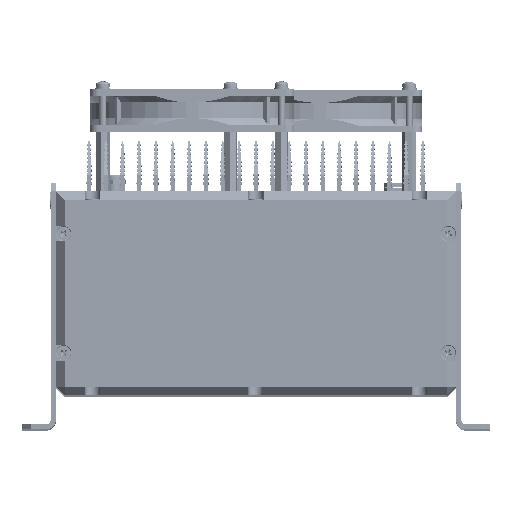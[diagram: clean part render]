
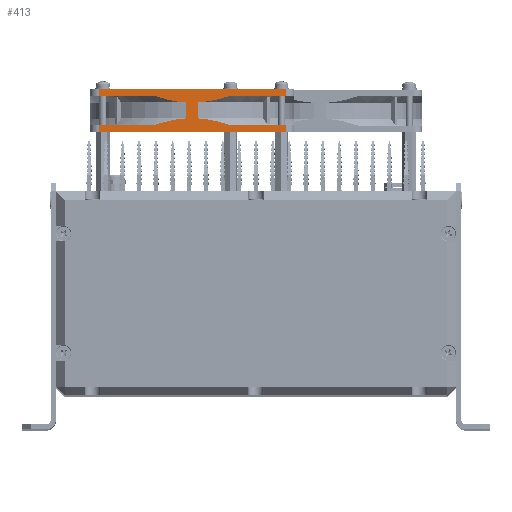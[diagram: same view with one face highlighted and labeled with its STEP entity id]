
A CAD part, top view. The second image highlights one B-rep face of the part: STEP entity #413.
In plain terms, the highlighted planar face has unit normal (0, 0, 1).
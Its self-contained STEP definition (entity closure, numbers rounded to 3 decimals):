
#413 = ADVANCED_FACE ( 'NONE', ( #228905 ), #347401, .F. ) ;
#1427 = VECTOR ( 'NONE', #3344, 1000. ) ;
#3344 = DIRECTION ( 'NONE',  ( -1., 0., 0. ) ) ;
#4995 = VECTOR ( 'NONE', #47165, 1000. ) ;
#6137 = VERTEX_POINT ( 'NONE', #358219 ) ;
#11400 = B_SPLINE_CURVE_WITH_KNOTS ( 'NONE', 3,
 ( #151990, #120975, #318081, #265135 ),
 .UNSPECIFIED., .F., .F.,
 ( 4, 4 ),
 ( 0., 0.02 ),
 .UNSPECIFIED. ) ;
#18480 = CARTESIAN_POINT ( 'NONE',  ( -144.943, 49.1, 412. ) ) ;
#19807 = LINE ( 'NONE', #240485, #4995 ) ;
#20267 = CARTESIAN_POINT ( 'NONE',  ( -164.034, 53.1, 412. ) ) ;
#20901 = EDGE_CURVE ( 'NONE', #86088, #28621, #112571, .T. ) ;
#22918 = EDGE_CURVE ( 'NONE', #28621, #90095, #197656, .T. ) ;
#26030 = LINE ( 'NONE', #221066, #66350 ) ;
#28621 = VERTEX_POINT ( 'NONE', #240553 ) ;
#36395 = VERTEX_POINT ( 'NONE', #237223 ) ;
#44754 = ORIENTED_EDGE ( 'NONE', *, *, #59536, .T. ) ;
#45956 = ORIENTED_EDGE ( 'NONE', *, *, #20901, .T. ) ;
#45995 = EDGE_CURVE ( 'NONE', #336000, #86088, #175949, .T. ) ;
#47165 = DIRECTION ( 'NONE',  ( 1., 0., 0. ) ) ;
#50794 = DIRECTION ( 'NONE',  ( 0., 1., 0. ) ) ;
#53211 = VECTOR ( 'NONE', #90683, 1000. ) ;
#54430 = CARTESIAN_POINT ( 'NONE',  ( -170.966, 53.1, 412. ) ) ;
#55868 = CARTESIAN_POINT ( 'NONE',  ( -227.5, 66.5, 412. ) ) ;
#56138 = CARTESIAN_POINT ( 'NONE',  ( -227.5, 49.1, 412. ) ) ;
#58629 = ORIENTED_EDGE ( 'NONE', *, *, #81802, .T. ) ;
#59536 = EDGE_CURVE ( 'NONE', #185257, #36395, #11400, .T. ) ;
#59849 = CARTESIAN_POINT ( 'NONE',  ( -190.057, 66.5, 412. ) ) ;
#66350 = VECTOR ( 'NONE', #186464, 1000. ) ;
#75941 = LINE ( 'NONE', #298631, #93955 ) ;
#77451 = CARTESIAN_POINT ( 'NONE',  ( -190.057, 49.1, 412. ) ) ;
#81802 = EDGE_CURVE ( 'NONE', #166411, #240986, #109787, .T. ) ;
#85006 = DIRECTION ( 'NONE',  ( 1., 0., 0. ) ) ;
#86088 = VERTEX_POINT ( 'NONE', #205165 ) ;
#86709 = DIRECTION ( 'NONE',  ( 0., 1., 0. ) ) ;
#90095 = VERTEX_POINT ( 'NONE', #168618 ) ;
#90683 = DIRECTION ( 'NONE',  ( 0., 1., 0. ) ) ;
#93592 = EDGE_CURVE ( 'NONE', #240986, #216820, #192881, .T. ) ;
#93955 = VECTOR ( 'NONE', #159770, 1000. ) ;
#97459 = CARTESIAN_POINT ( 'NONE',  ( -227.5, 70.3, 412. ) ) ;
#99081 = VERTEX_POINT ( 'NONE', #150701 ) ;
#101679 = CARTESIAN_POINT ( 'NONE',  ( -190.057, 49.1, 412. ) ) ;
#109787 = B_SPLINE_CURVE_WITH_KNOTS ( 'NONE', 3,
 ( #135740, #360170, #247042, #77451 ),
 .UNSPECIFIED., .F., .F.,
 ( 4, 4 ),
 ( 0., 0.02 ),
 .UNSPECIFIED. ) ;
#110116 = EDGE_LOOP ( 'NONE', ( #253597, #244427, #45956, #328451, #113527, #44754, #144842, #175356, #179095, #174191, #342037, #134014, #159934, #58629, #178528, #135521 ) ) ;
#112571 = LINE ( 'NONE', #56138, #1427 ) ;
#113527 = ORIENTED_EDGE ( 'NONE', *, *, #199010, .T. ) ;
#116207 = VECTOR ( 'NONE', #265079, 1000. ) ;
#120975 = CARTESIAN_POINT ( 'NONE',  ( -157.471, 62.878, 412. ) ) ;
#124553 = LINE ( 'NONE', #292531, #116207 ) ;
#134014 = ORIENTED_EDGE ( 'NONE', *, *, #258163, .T. ) ;
#135521 = ORIENTED_EDGE ( 'NONE', *, *, #199093, .T. ) ;
#135740 = CARTESIAN_POINT ( 'NONE',  ( -170.966, 53.1, 412. ) ) ;
#137914 = CARTESIAN_POINT ( 'NONE',  ( -227.5, 66.5, 412. ) ) ;
#139577 = CARTESIAN_POINT ( 'NONE',  ( -112.5, 70.3, 412. ) ) ;
#144842 = ORIENTED_EDGE ( 'NONE', *, *, #315805, .T. ) ;
#147192 = CARTESIAN_POINT ( 'NONE',  ( -177.529, 62.878, 412. ) ) ;
#148985 = CARTESIAN_POINT ( 'NONE',  ( -183.87, 64.323, 412. ) ) ;
#150701 = CARTESIAN_POINT ( 'NONE',  ( -222.5, 66.5, 412. ) ) ;
#151990 = CARTESIAN_POINT ( 'NONE',  ( -164.034, 62.5, 412. ) ) ;
#155012 = CARTESIAN_POINT ( 'NONE',  ( -112.5, 66.5, 412. ) ) ;
#159770 = DIRECTION ( 'NONE',  ( 0., -1., 0. ) ) ;
#159934 = ORIENTED_EDGE ( 'NONE', *, *, #245248, .T. ) ;
#162383 = CARTESIAN_POINT ( 'NONE',  ( -157.471, 52.722, 412. ) ) ;
#166411 = VERTEX_POINT ( 'NONE', #54430 ) ;
#167005 = DIRECTION ( 'NONE',  ( 1., 0., 0. ) ) ;
#168618 = CARTESIAN_POINT ( 'NONE',  ( -164.034, 53.1, 412. ) ) ;
#174191 = ORIENTED_EDGE ( 'NONE', *, *, #349273, .T. ) ;
#175356 = ORIENTED_EDGE ( 'NONE', *, *, #293825, .T. ) ;
#175949 = LINE ( 'NONE', #139577, #355929 ) ;
#177024 = VERTEX_POINT ( 'NONE', #323612 ) ;
#178528 = ORIENTED_EDGE ( 'NONE', *, *, #93592, .T. ) ;
#179095 = ORIENTED_EDGE ( 'NONE', *, *, #347104, .F. ) ;
#185257 = VERTEX_POINT ( 'NONE', #211342 ) ;
#186464 = DIRECTION ( 'NONE',  ( 0., -1., 0. ) ) ;
#189212 = LINE ( 'NONE', #300791, #320039 ) ;
#191077 = VECTOR ( 'NONE', #247708, 1000. ) ;
#192881 = LINE ( 'NONE', #253134, #191077 ) ;
#197656 = B_SPLINE_CURVE_WITH_KNOTS ( 'NONE', 3,
 ( #18480, #271980, #162383, #20267 ),
 .UNSPECIFIED., .F., .F.,
 ( 4, 4 ),
 ( 0., 0.02 ),
 .UNSPECIFIED. ) ;
#199010 = EDGE_CURVE ( 'NONE', #90095, #185257, #229312, .T. ) ;
#199093 = EDGE_CURVE ( 'NONE', #216820, #236743, #75941, .T. ) ;
#200063 = CARTESIAN_POINT ( 'NONE',  ( -170.966, 62.5, 412. ) ) ;
#201461 = DIRECTION ( 'NONE',  ( -1., 0., 0. ) ) ;
#205165 = CARTESIAN_POINT ( 'NONE',  ( -112.5, 49.1, 412. ) ) ;
#211342 = CARTESIAN_POINT ( 'NONE',  ( -164.034, 62.5, 412. ) ) ;
#216164 = VERTEX_POINT ( 'NONE', #335566 ) ;
#216715 = CARTESIAN_POINT ( 'NONE',  ( -112.5, 70.3, 412. ) ) ;
#216820 = VERTEX_POINT ( 'NONE', #328141 ) ;
#221066 = CARTESIAN_POINT ( 'NONE',  ( -222.5, 70.3, 412. ) ) ;
#225598 = VECTOR ( 'NONE', #85006, 1000. ) ;
#228905 = FACE_OUTER_BOUND ( 'NONE', #110116, .T. ) ;
#229312 = LINE ( 'NONE', #340680, #53211 ) ;
#230060 = CARTESIAN_POINT ( 'NONE',  ( -170.966, 44.05, 412. ) ) ;
#236743 = VERTEX_POINT ( 'NONE', #265821 ) ;
#237223 = CARTESIAN_POINT ( 'NONE',  ( -144.943, 66.5, 412. ) ) ;
#237681 = EDGE_CURVE ( 'NONE', #99081, #216164, #278564, .T. ) ;
#240485 = CARTESIAN_POINT ( 'NONE',  ( -227.5, 70.3, 412. ) ) ;
#240553 = CARTESIAN_POINT ( 'NONE',  ( -144.943, 49.1, 412. ) ) ;
#240986 = VERTEX_POINT ( 'NONE', #101679 ) ;
#244427 = ORIENTED_EDGE ( 'NONE', *, *, #45995, .T. ) ;
#245248 = EDGE_CURVE ( 'NONE', #177024, #166411, #339704, .T. ) ;
#247042 = CARTESIAN_POINT ( 'NONE',  ( -183.87, 51.277, 412. ) ) ;
#247708 = DIRECTION ( 'NONE',  ( -1., 0., 0. ) ) ;
#253134 = CARTESIAN_POINT ( 'NONE',  ( -227.5, 49.1, 412. ) ) ;
#253597 = ORIENTED_EDGE ( 'NONE', *, *, #339186, .T. ) ;
#256026 = VERTEX_POINT ( 'NONE', #216715 ) ;
#258163 = EDGE_CURVE ( 'NONE', #216164, #177024, #266677, .T. ) ;
#265079 = DIRECTION ( 'NONE',  ( 1., 0., 0. ) ) ;
#265135 = CARTESIAN_POINT ( 'NONE',  ( -144.943, 66.5, 412. ) ) ;
#265821 = CARTESIAN_POINT ( 'NONE',  ( -222.5, 45.3, 412. ) ) ;
#266677 = B_SPLINE_CURVE_WITH_KNOTS ( 'NONE', 3,
 ( #59849, #148985, #147192, #200063 ),
 .UNSPECIFIED., .F., .F.,
 ( 4, 4 ),
 ( 0., 0.02 ),
 .UNSPECIFIED. ) ;
#271980 = CARTESIAN_POINT ( 'NONE',  ( -151.13, 51.277, 412. ) ) ;
#278564 = LINE ( 'NONE', #137914, #225598 ) ;
#283215 = DIRECTION ( 'NONE',  ( 0., -1., 0. ) ) ;
#289177 = DIRECTION ( 'NONE',  ( 0., 0., -1. ) ) ;
#292531 = CARTESIAN_POINT ( 'NONE',  ( -227.5, 45.3, 412. ) ) ;
#293825 = EDGE_CURVE ( 'NONE', #306245, #256026, #189212, .T. ) ;
#298631 = CARTESIAN_POINT ( 'NONE',  ( -222.5, 70.3, 412. ) ) ;
#300791 = CARTESIAN_POINT ( 'NONE',  ( -112.5, 70.3, 412. ) ) ;
#305851 = LINE ( 'NONE', #55868, #360901 ) ;
#306245 = VERTEX_POINT ( 'NONE', #155012 ) ;
#309209 = VECTOR ( 'NONE', #283215, 1000. ) ;
#315805 = EDGE_CURVE ( 'NONE', #36395, #306245, #305851, .T. ) ;
#318081 = CARTESIAN_POINT ( 'NONE',  ( -151.13, 64.323, 412. ) ) ;
#320039 = VECTOR ( 'NONE', #50794, 1000. ) ;
#323612 = CARTESIAN_POINT ( 'NONE',  ( -170.966, 62.5, 412. ) ) ;
#328141 = CARTESIAN_POINT ( 'NONE',  ( -222.5, 49.1, 412. ) ) ;
#328451 = ORIENTED_EDGE ( 'NONE', *, *, #22918, .T. ) ;
#331023 = CARTESIAN_POINT ( 'NONE',  ( -112.5, 45.3, 412. ) ) ;
#335566 = CARTESIAN_POINT ( 'NONE',  ( -190.057, 66.5, 412. ) ) ;
#336000 = VERTEX_POINT ( 'NONE', #331023 ) ;
#339186 = EDGE_CURVE ( 'NONE', #236743, #336000, #124553, .T. ) ;
#339704 = LINE ( 'NONE', #230060, #309209 ) ;
#340680 = CARTESIAN_POINT ( 'NONE',  ( -164.034, 44.05, 412. ) ) ;
#342037 = ORIENTED_EDGE ( 'NONE', *, *, #237681, .T. ) ;
#347104 = EDGE_CURVE ( 'NONE', #6137, #256026, #19807, .T. ) ;
#347401 = PLANE ( 'NONE',  #360265 ) ;
#349273 = EDGE_CURVE ( 'NONE', #6137, #99081, #26030, .T. ) ;
#355929 = VECTOR ( 'NONE', #86709, 1000. ) ;
#358219 = CARTESIAN_POINT ( 'NONE',  ( -222.5, 70.3, 412. ) ) ;
#360170 = CARTESIAN_POINT ( 'NONE',  ( -177.529, 52.722, 412. ) ) ;
#360265 = AXIS2_PLACEMENT_3D ( 'NONE', #97459, #289177, #201461 ) ;
#360901 = VECTOR ( 'NONE', #167005, 1000. ) ;
